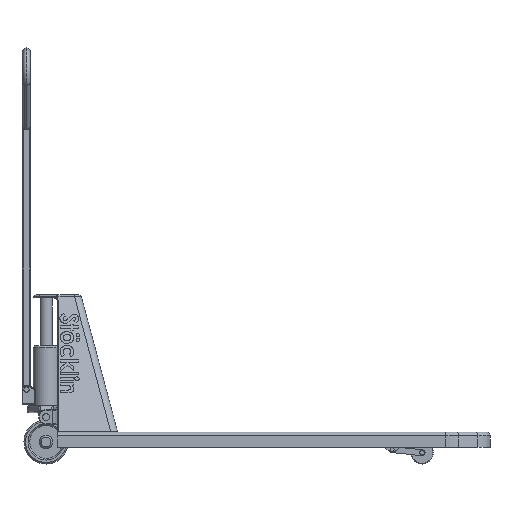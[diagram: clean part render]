
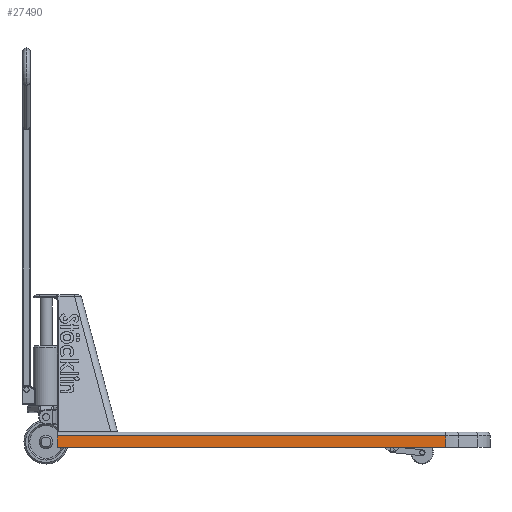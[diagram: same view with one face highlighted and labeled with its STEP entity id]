
A CAD part, front view. The second image highlights one B-rep face of the part: STEP entity #27490.
In plain terms, the highlighted planar face has unit normal (0, -1, 0).
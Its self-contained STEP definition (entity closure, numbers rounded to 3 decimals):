
#20006 = CARTESIAN_POINT ( 'NONE',  ( 0., -270., 0. ) ) ;
#20007 = DIRECTION ( 'NONE',  ( 1., 0., 0. ) ) ;
#20008 = VECTOR ( 'NONE', #20007, 1000. ) ;
#20009 = CARTESIAN_POINT ( 'NONE',  ( 0., -270., 0. ) ) ;
#20010 = LINE ( 'NONE', #20009, #20008 ) ;
#20012 = CARTESIAN_POINT ( 'NONE',  ( 1032.367, -270., 0. ) ) ;
#20468 = CARTESIAN_POINT ( 'NONE',  ( 0., -270., 30. ) ) ;
#20469 = DIRECTION ( 'NONE',  ( 0., 0., -1. ) ) ;
#20470 = VECTOR ( 'NONE', #20469, 1000. ) ;
#20471 = CARTESIAN_POINT ( 'NONE',  ( 0., -270., 40. ) ) ;
#20472 = LINE ( 'NONE', #20471, #20470 ) ;
#20474 = DIRECTION ( 'NONE',  ( -1., 0., 0. ) ) ;
#20475 = VECTOR ( 'NONE', #20474, 1000. ) ;
#20476 = CARTESIAN_POINT ( 'NONE',  ( 0., -270., 30. ) ) ;
#20477 = LINE ( 'NONE', #20476, #20475 ) ;
#20478 = CARTESIAN_POINT ( 'NONE',  ( 1032.367, -270., 30. ) ) ;
#20479 = DIRECTION ( 'NONE',  ( 0., 0., -1. ) ) ;
#20480 = VECTOR ( 'NONE', #20479, 1000. ) ;
#20481 = CARTESIAN_POINT ( 'NONE',  ( 1032.367, -270., 40. ) ) ;
#20482 = LINE ( 'NONE', #20481, #20480 ) ;
#20628 = DIRECTION ( 'NONE',  ( 0., 0., 1. ) ) ;
#20629 = DIRECTION ( 'NONE',  ( 0., 1., 0. ) ) ;
#20630 = CARTESIAN_POINT ( 'NONE',  ( 0., -270., 40. ) ) ;
#20632 = AXIS2_PLACEMENT_3D ( 'NONE', #20630, #20629, #20628 ) ;
#20633 = PLANE ( 'NONE',  #20632 ) ;
#20634 = FACE_OUTER_BOUND ( 'NONE', #27493, .T. ) ;
#26941 = VERTEX_POINT ( 'NONE', #20012 ) ;
#26946 = EDGE_CURVE ( 'NONE', #26948, #26941, #20010, .T. ) ;
#26948 = VERTEX_POINT ( 'NONE', #20006 ) ;
#27348 = ORIENTED_EDGE ( 'NONE', *, *, #27350, .F. ) ;
#27350 = EDGE_CURVE ( 'NONE', #27352, #26941, #20482, .T. ) ;
#27352 = VERTEX_POINT ( 'NONE', #20478 ) ;
#27354 = ORIENTED_EDGE ( 'NONE', *, *, #27355, .T. ) ;
#27355 = EDGE_CURVE ( 'NONE', #27352, #27370, #20477, .T. ) ;
#27369 = EDGE_CURVE ( 'NONE', #27370, #26948, #20472, .T. ) ;
#27370 = VERTEX_POINT ( 'NONE', #20468 ) ;
#27457 = ORIENTED_EDGE ( 'NONE', *, *, #27369, .T. ) ;
#27490 = ADVANCED_FACE ( 'NONE', ( #20634 ), #20633, .F. ) ;
#27493 = EDGE_LOOP ( 'NONE', ( #27495, #27348, #27354, #27457 ) ) ;
#27495 = ORIENTED_EDGE ( 'NONE', *, *, #26946, .T. ) ;
